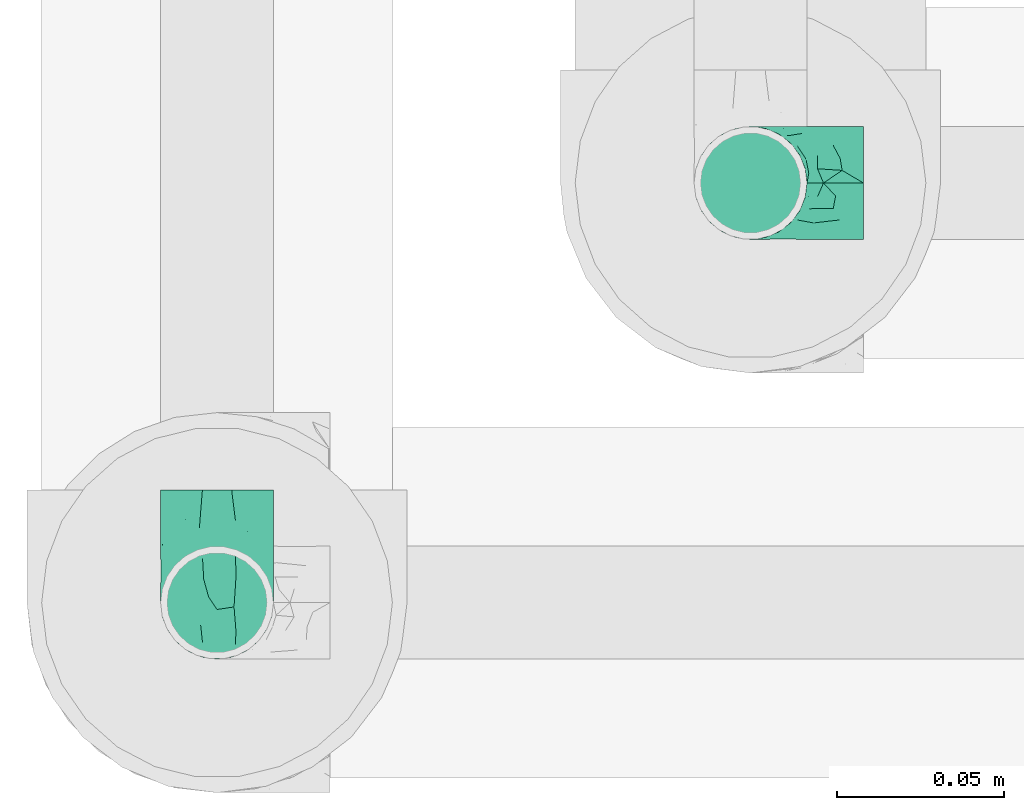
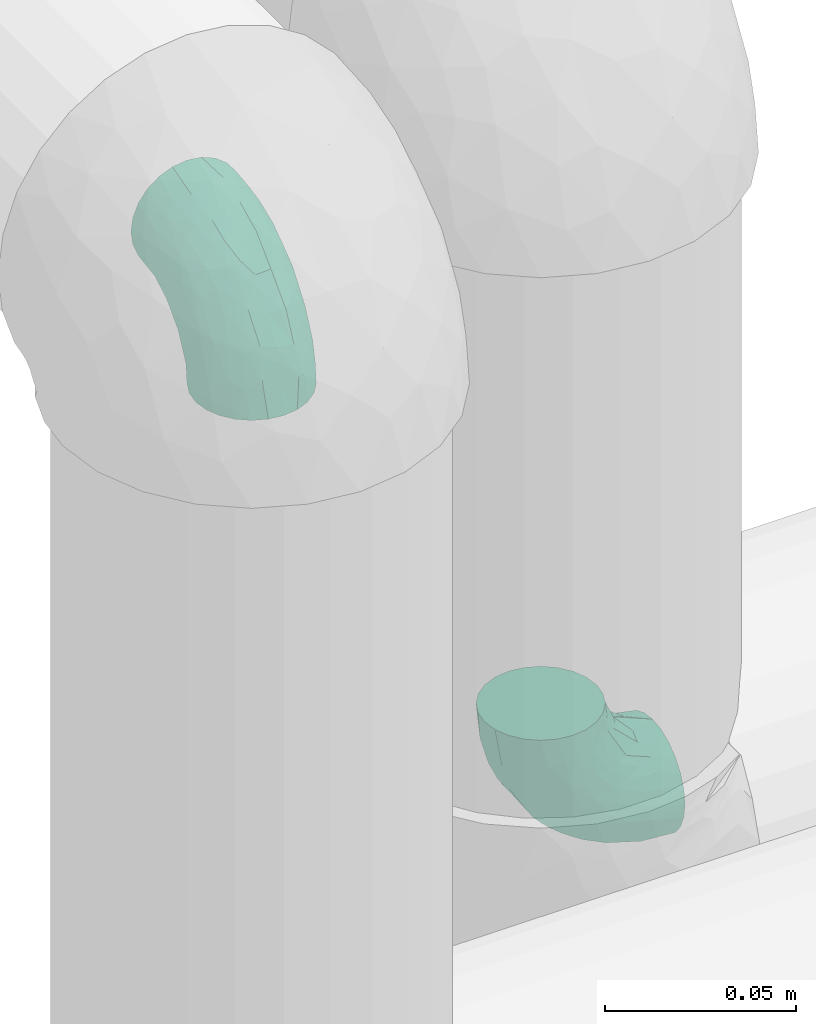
# One storey, part 78 of 83: 2 flow fittings.
"""IFC2X3 building model written with IfcOpenShell, lengths in millimetres."""

from ifc_helpers import new_model, entity, si_unit, converted_unit, derived_unit, direction, frame, origin_with_axes, place, context, subcontext, project, spatial, open_shell, surface_model, source, transform, mapped, type_object, element, save


model = new_model("IFC2X3")

# Units and contexts
model_context = context("Model", 3, precision=0.01, world=frame((0.0, 4.29681676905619e-09, 0.0)), true_north=direction((4.01073788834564e-13, 1.0)))
plan_context = context("Plan", 3, precision=0.01, world=frame((0.0, 4.29681676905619e-09, 0.0)), true_north=direction((4.01073788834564e-13, 1.0)))
body_context = subcontext(model_context, "Body", "Model", "MODEL_VIEW")
ifc_project = project(units=[converted_unit("PLANEANGLEUNIT", "DEGREE", entity("IfcPositiveLengthMeasure", 0.0174532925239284), si_unit("PLANEANGLEUNIT", "RADIAN"), dimensions=[0, 0, 0, 0, 0, 0, 0]), si_unit("AREAUNIT", "SQUARE_METRE"), si_unit("LENGTHUNIT", "METRE", prefix="MILLI"), si_unit("MASSUNIT", "GRAM", prefix="KILO"), si_unit("POWERUNIT", "WATT"), si_unit("PRESSUREUNIT", "PASCAL"), si_unit("FORCEUNIT", "NEWTON", prefix="KILO"), si_unit("ELECTRICVOLTAGEUNIT", "VOLT"), si_unit("ELECTRICCURRENTUNIT", "AMPERE"), si_unit("THERMODYNAMICTEMPERATUREUNIT", "DEGREE_CELSIUS"), si_unit("TIMEUNIT", "SECOND"), si_unit("VOLUMEUNIT", "CUBIC_METRE"), derived_unit("LINEARVELOCITYUNIT", [(si_unit("LENGTHUNIT", "METRE"), 1), (si_unit("TIMEUNIT", "SECOND"), -1)]), derived_unit("VOLUMETRICFLOWRATEUNIT", [(si_unit("VOLUMEUNIT", "CUBIC_METRE"), 1), (si_unit("TIMEUNIT", "SECOND"), -1)]), derived_unit("THERMALTRANSMITTANCEUNIT", [(si_unit("POWERUNIT", "WATT"), 1), (si_unit("THERMODYNAMICTEMPERATUREUNIT", "KELVIN"), -1), (si_unit("AREAUNIT", "SQUARE_METRE"), -1)]), derived_unit("SOUNDPRESSUREUNIT", [(si_unit("PRESSUREUNIT", "PASCAL"), 1)])], contexts=[model_context, plan_context])

# Site, building, storey
site_placement = place(None, frame((0.0, -4.29681676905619e-09, 0.0), z_axis=(0.0, 0.0, 1.0), x_axis=(1.0, 0.0, 0.0)))
site = spatial("IfcSite", under=ifc_project, at=site_placement, Name="ENGM", CompositionType="ELEMENT")
building_placement = place(site_placement, frame((0.0, 4.29681676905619e-09, 0.0), z_axis=(0.0, 0.0, 1.0), x_axis=(1.0, 0.0, 0.0)))
building = spatial("IfcBuilding", under=site, at=building_placement, Name="TI", CompositionType="ELEMENT")
storey_placement = place(building_placement, frame((0.0, 0.0, 204000.0), z_axis=(0.0, 0.0, 1.0), x_axis=(1.0, 0.0, 0.0)))
storey = spatial("IfcBuildingStorey", under=building, at=storey_placement, Name="Nivå D", CompositionType="ELEMENT", Elevation=204000.0)

# Flow fittings
pipe_fitting_type = type_object("IfcPipeFittingType", Name="magi_pipe_fe_elbow_short_001", PredefinedType="BEND")
shared_shape_1 = source(origin_with_axes(), body_context, "Body", "SurfaceModel", [
    surface_model("IfcShellBasedSurfaceModel", [(-33.80026, 0.0, -16.9), (-33.80026, -14.63583, -8.45), (-33.80026, 4.37404, -16.32415), (-33.80026, 8.45, -14.63583), (-33.80026, 11.9501, -11.9501), (-33.80026, 16.32415, -4.37404), (-33.80026, 14.63583, -8.45), (-33.80026, -16.32415, -4.37404), (-33.80026, -16.32415, 4.37404), (-33.80026, -11.9501, -11.9501), (-33.80026, -8.45, -14.63583), (-33.80026, -4.37404, -16.32415), (-33.80026, -16.9, 0.0), (-33.80026, 16.32415, 4.37404), (-33.80026, 16.9, 0.0), (-33.80026, 11.9501, 11.9501), (-33.80026, 14.63583, 8.45), (-33.80026, 4.37404, 16.32415), (-33.80026, 8.45, 14.63583), (-33.80026, -14.63583, 8.45), (-33.80026, -11.9501, 11.9501), (-33.80026, -8.45, 14.63583), (-33.80026, -4.37404, 16.32415), (-33.80026, 0.0, 16.9), (-11.95036, 33.80016, -11.9501), (-0.00026, 33.80026, -16.9), (-4.3743, 33.80022, -16.32415), (-8.45026, 33.80019, -14.63583), (-14.63609, 33.80014, -8.45), (-16.3244, 33.80013, -4.37404), (16.32389, 33.80038, -4.37404), (8.44974, 33.80032, -14.63583), (11.94985, 33.80035, -11.9501), (4.37379, 33.80029, -16.32415), (14.63557, 33.80037, -8.45), (16.89974, 33.80038, 0.0), (-16.90026, 33.80013, 0.0), (-11.95036, 33.80016, 11.9501), (-16.3244, 33.80013, 4.37404), (-14.63609, 33.80014, 8.45), (-8.45026, 33.80019, 14.63583), (-4.3743, 33.80022, 16.32415), (8.44974, 33.80032, 14.63583), (16.32389, 33.80038, 4.37404), (11.94985, 33.80035, 11.9501), (14.63557, 33.80037, 8.45), (-0.00026, 33.80026, 16.9), (4.37379, 33.80029, 16.32415), (-24.79416, -13.12946, 9.4872), (-22.19313, -9.75019, 12.59314), (-24.09919, -14.97033, 0.0), (-14.93962, -10.76257, 8.52969), (-22.46121, -14.75051, 5.27076), (14.75034, 22.46132, 5.27077), (11.92501, 13.23925, 4.33237), (13.04055, 14.39822, 0.0), (7.71376, 13.68877, 11.5589), (9.75002, 22.1932, 12.59314), (4.10156, 13.05731, 14.04018), (-24.84033, -6.39063, 15.2048), (-25.818, -2.23879, 16.61097), (-23.66571, 2.59054, 16.87119), (-26.50442, 14.06512, 11.08153), (-24.21275, 17.66367, 7.72658), (-29.58537, 15.86958, 7.00283), (-6.17396, -7.54542, 0.0), (-13.23916, -11.92511, 4.33237), (-14.39812, -13.04066, 0.0), (-17.8145, 18.87383, 11.97105), (-6.30868, 29.15155, 15.82987), (-2.3164, 25.28023, 16.85849), (-29.23944, 10.23435, 13.77053), (-1.45463, -2.85691, 7.61467), (-0.28333, 0.34883, 10.09502), (-5.74499, -4.04705, 10.41215), (-4.41151, 11.31935, 16.59407), (-8.39744, 3.10035, 15.78118), (-1.72666, 9.13071, 15.53089), (-17.39929, 24.75352, 7.64978), (-26.19259, 20.05122, 0.0), (-28.14542, 17.29658, 4.25856), (-26.05172, 6.6281, 15.96447), (-5.87367, 16.61956, 16.86968), (-12.51823, 12.51813, 16.48937), (-10.06324, 7.38522, 16.81294), (-3.01894, 3.01892, 13.81716), (-13.05728, -4.10166, 14.04018), (-16.82571, -0.15164, 16.38038), (10.76246, 14.9397, 8.52969), (13.12927, 24.79426, 9.4872), (6.39044, 24.84038, 15.2048), (2.23859, 25.81802, 16.61097), (-13.68872, -7.71387, 11.5589), (14.97015, 24.0993, 0.0), (-7.30912, 22.90005, 16.09489), (-10.67978, 26.1743, 14.008), (-12.78315, 18.26933, 15.06065), (-13.8858, 22.45244, 12.93244), (-18.04964, 15.16506, 14.04434), (-23.1168, 20.0818, 4.02986), (-21.85011, 21.84994, 0.0), (-18.55841, 25.48281, 3.93066), (-13.95162, 26.94747, 11.03289), (-18.57118, 7.23909, 16.59756), (-16.58351, 4.14124, 16.89279), (-17.96682, 11.46715, 15.63151), (-9.84471, 17.54314, 16.18938), (0.15151, 16.82571, 16.38038), (-23.27225, 11.47203, 14.23155), (3.84827, 5.87015, 10.70478), (-8.02144, -7.54415, 7.93271), (1.00331, -2.19504, 4.57397), (5.13177, 3.01012, 5.90213), (5.24179, 1.75482, 2.53261), (8.70445, 7.04983, 3.99211), (-20.05141, 26.19244, 0.0), (8.48479, 8.76703, 7.09328), (-4.55517, -6.72069, 4.90675), (2.05019, -2.05018, 0.0), (7.54537, 6.17402, 0.0), (-26.75421, 2.1369, -16.845), (-14.62015, 24.73811, -11.27737), (-28.45298, -13.45335, -9.81895), (-26.00493, 6.63555, -15.96645), (-23.06749, 20.04575, -4.26202), (-13.80661, -4.26498, -14.17874), (-14.67518, -0.21077, -16.07388), (-6.79026, -0.28272, -13.84776), (-24.53606, 11.08097, -14.13417), (-26.72072, 14.00838, -11.05777), (10.09652, 24.45021, -12.75975), (5.8322, 21.40245, -15.03046), (6.66228, 28.54267, -15.38093), (-20.38201, 15.4871, -12.74596), (12.53252, 21.23474, -9.15363), (12.54483, 15.67539, -5.54877), (9.75213, 12.89314, -8.6634), (-15.65205, 19.6422, -13.01328), (-12.03543, 20.66509, -14.67666), (-15.61924, 15.61912, -14.83881), (-25.56577, -15.26205, 0.0), (-24.65476, -15.12934, -5.50954), (13.45313, 28.45309, -9.81895), (15.12915, 24.65488, -5.50954), (-7.3547, -8.31015, -5.65563), (-15.6753, -12.54494, -5.54877), (-24.45014, -10.0967, -12.75975), (0.1652, 0.41324, -9.71725), (-5.70678, -5.33058, -8.89293), (-5.1386, -2.37174, -11.53563), (-21.23464, -12.53268, -9.15363), (0.71136, 7.93882, -14.09381), (0.21066, 14.67519, -16.07388), (3.49278, 14.42795, -14.7638), (-24.89935, -2.13088, -16.591), (-28.54262, -6.6625, -15.38093), (-18.44408, -7.71659, -13.26959), (2.1307, 24.89937, -16.591), (-28.64365, 17.44413, -2.89319), (1.70022, -1.28692, -5.09503), (-16.57089, 26.81954, -7.36597), (-17.69076, 27.42641, -3.76406), (-12.89307, -9.75223, -8.6634), (-5.96624, 5.96619, -15.95813), (-20.53733, 20.09346, -8.28986), (-2.1371, 26.75419, -16.845), (-6.89891, 24.58799, -16.02578), (-10.60759, 26.53174, -13.98044), (-21.40241, -5.83237, -15.03046), (2.93181, 5.89648, -11.55919), (6.89382, 12.61868, -11.82232), (5.58051, 5.95357, -8.79457), (-3.99527, 18.61814, -16.89635), (8.3101, 7.35476, -5.65563), (-9.13845, 9.86157, -16.89041), (-9.99997, 16.02134, -16.39699), (-16.68584, 9.78037, -16.342), (-27.01939, 16.61159, -7.12978), (15.26186, 25.56589, 0.0), (-18.61817, 3.99513, -16.89635), (-19.37518, 27.82503, 0.0), (-12.61863, -6.89392, -11.82232), (-18.84723, 19.14024, -10.96546)], [open_shell([[[0, 1, 2]], [[3, 2, 4]], [[5, 6, 4]], [[4, 2, 1]], [[4, 7, 8]], [[9, 1, 10]], [[0, 11, 10]], [[0, 10, 1]], [[1, 7, 4]], [[12, 8, 7]], [[5, 4, 8]], [[13, 14, 15]], [[16, 13, 15]], [[17, 18, 15]], [[8, 15, 14]], [[17, 15, 8]], [[19, 20, 8]], [[21, 8, 20]], [[22, 23, 21]], [[17, 8, 21]], [[21, 23, 17]], [[5, 8, 14]], [[24, 25, 26]], [[24, 26, 27]], [[24, 28, 29]], [[24, 29, 25]], [[25, 29, 30]], [[31, 30, 32]], [[31, 33, 25]], [[32, 30, 34]], [[25, 30, 31]], [[29, 35, 30]], [[29, 36, 35]], [[37, 36, 38]], [[37, 38, 39]], [[37, 40, 41]], [[36, 37, 42]], [[42, 37, 41]], [[43, 44, 45]], [[35, 44, 43]], [[42, 46, 47]], [[44, 36, 42]], [[41, 46, 42]], [[44, 35, 36]], [[20, 48, 49]], [[8, 12, 50]], [[51, 48, 52]], [[53, 54, 55]], [[48, 20, 19]], [[8, 52, 19]], [[56, 57, 58]], [[49, 21, 20]], [[49, 59, 21]], [[23, 60, 61]], [[62, 63, 64]], [[65, 66, 67]], [[57, 44, 42]], [[62, 68, 63]], [[41, 69, 70]], [[18, 71, 15]], [[22, 60, 23]], [[72, 73, 74]], [[75, 76, 77]], [[15, 62, 16]], [[39, 38, 78]], [[79, 14, 80]], [[64, 13, 16]], [[23, 61, 17]], [[17, 81, 18]], [[82, 83, 84]], [[74, 85, 86]], [[59, 86, 87]], [[88, 89, 57]], [[90, 42, 47]], [[45, 53, 43]], [[47, 46, 91]], [[54, 53, 88]], [[45, 89, 53]], [[92, 86, 49]], [[89, 45, 44]], [[21, 59, 22]], [[53, 55, 93]], [[93, 43, 53]], [[66, 52, 67]], [[94, 82, 70]], [[95, 96, 94]], [[97, 98, 96]], [[79, 99, 100]], [[40, 37, 95]], [[101, 100, 99]], [[68, 78, 63]], [[41, 40, 69]], [[14, 13, 80]], [[95, 94, 69]], [[78, 101, 99]], [[37, 102, 95]], [[70, 46, 41]], [[97, 95, 102]], [[8, 50, 52]], [[90, 57, 42]], [[57, 90, 58]], [[81, 17, 61]], [[103, 104, 84]], [[105, 81, 103]], [[37, 39, 102]], [[106, 96, 83]], [[94, 106, 82]], [[91, 70, 107]], [[71, 62, 15]], [[62, 108, 98]], [[86, 59, 49]], [[67, 52, 50]], [[60, 59, 87]], [[92, 49, 51]], [[86, 85, 76]], [[91, 90, 47]], [[35, 43, 93]], [[107, 77, 58]], [[107, 58, 90]], [[58, 85, 109]], [[110, 74, 92]], [[72, 74, 110]], [[66, 51, 52]], [[72, 111, 112]], [[113, 114, 112]], [[56, 88, 57]], [[52, 48, 19]], [[49, 48, 51]], [[57, 89, 44]], [[53, 89, 88]], [[103, 81, 61]], [[71, 81, 108]], [[13, 64, 80]], [[63, 78, 99]], [[36, 115, 101]], [[101, 115, 100]], [[39, 78, 102]], [[68, 102, 78]], [[97, 96, 95]], [[105, 98, 108]], [[103, 84, 83]], [[107, 70, 82]], [[76, 84, 87]], [[82, 84, 75]], [[70, 91, 46]], [[90, 91, 107]], [[59, 60, 22]], [[61, 60, 87]], [[73, 85, 74]], [[109, 112, 116]], [[103, 61, 104]], [[105, 103, 83]], [[96, 105, 83]], [[81, 105, 108]], [[96, 98, 105]], [[62, 98, 68]], [[61, 87, 104]], [[87, 84, 104]], [[86, 76, 87]], [[77, 76, 85]], [[58, 77, 85]], [[75, 77, 107]], [[82, 75, 107]], [[76, 75, 84]], [[81, 71, 18]], [[62, 71, 108]], [[95, 69, 40]], [[70, 69, 94]], [[62, 64, 16]], [[80, 63, 99]], [[63, 80, 64]], [[80, 99, 79]], [[66, 65, 117]], [[110, 66, 117]], [[112, 114, 116]], [[118, 117, 65]], [[110, 92, 51]], [[112, 111, 113]], [[119, 55, 54]], [[74, 86, 92]], [[58, 109, 56]], [[116, 56, 109]], [[66, 110, 51]], [[72, 110, 117]], [[111, 72, 117]], [[73, 112, 109]], [[117, 118, 111]], [[113, 111, 118]], [[118, 119, 113]], [[114, 119, 54]], [[119, 114, 113]], [[116, 54, 88]], [[54, 116, 114]], [[116, 88, 56]], [[112, 73, 72]], [[85, 73, 109]], [[78, 38, 101]], [[36, 101, 38]], [[102, 68, 97]], [[97, 68, 98]], [[82, 106, 83]], [[94, 96, 106]], [[2, 120, 0]], [[28, 24, 121]], [[9, 122, 1]], [[3, 123, 2]], [[100, 124, 79]], [[125, 126, 127]], [[128, 4, 129]], [[130, 131, 132]], [[128, 129, 133]], [[134, 135, 136]], [[137, 138, 139]], [[128, 3, 4]], [[67, 140, 141]], [[134, 142, 143]], [[141, 7, 1]], [[144, 65, 145]], [[146, 9, 10]], [[147, 148, 149]], [[145, 141, 150]], [[151, 152, 153]], [[154, 11, 0]], [[10, 155, 146]], [[150, 146, 156]], [[155, 10, 11]], [[143, 135, 134]], [[33, 157, 25]], [[14, 79, 158]], [[148, 159, 144]], [[160, 161, 29]], [[145, 162, 144]], [[163, 152, 151]], [[29, 28, 160]], [[121, 164, 160]], [[31, 32, 130]], [[25, 165, 26]], [[26, 165, 166]], [[142, 32, 34]], [[24, 27, 167]], [[124, 161, 164]], [[157, 33, 132]], [[155, 154, 168]], [[123, 3, 128]], [[169, 170, 171]], [[172, 157, 152]], [[26, 166, 27]], [[132, 33, 31]], [[142, 130, 32]], [[168, 154, 126]], [[136, 135, 173]], [[133, 137, 139]], [[4, 6, 129]], [[170, 131, 130]], [[34, 30, 143]], [[172, 174, 175]], [[176, 123, 128]], [[158, 177, 5]], [[135, 55, 119]], [[167, 27, 166]], [[175, 166, 172]], [[137, 167, 138]], [[122, 141, 1]], [[140, 12, 7]], [[30, 35, 178]], [[170, 130, 134]], [[152, 157, 131]], [[165, 157, 172]], [[153, 170, 151]], [[152, 163, 174]], [[168, 125, 156]], [[122, 146, 150]], [[120, 154, 0]], [[179, 174, 126]], [[179, 126, 154]], [[126, 163, 127]], [[162, 145, 150]], [[140, 7, 141]], [[30, 178, 143]], [[55, 143, 178]], [[177, 129, 6]], [[128, 133, 139]], [[176, 128, 139]], [[120, 123, 179]], [[121, 160, 28]], [[161, 100, 180]], [[166, 175, 138]], [[121, 24, 167]], [[161, 36, 29]], [[79, 124, 158]], [[124, 164, 177]], [[161, 124, 100]], [[136, 171, 170]], [[127, 163, 151]], [[147, 171, 159]], [[148, 144, 162]], [[127, 151, 169]], [[127, 181, 125]], [[129, 177, 164]], [[6, 5, 177]], [[159, 65, 144]], [[67, 141, 145]], [[143, 55, 135]], [[135, 119, 173]], [[123, 120, 2]], [[154, 120, 179]], [[157, 165, 25]], [[166, 165, 172]], [[172, 152, 174]], [[176, 139, 175]], [[126, 174, 163]], [[176, 174, 179]], [[174, 176, 175]], [[123, 176, 179]], [[150, 181, 162]], [[127, 149, 181]], [[181, 148, 162]], [[159, 148, 147]], [[171, 136, 173]], [[170, 134, 136]], [[159, 171, 173]], [[171, 147, 169]], [[169, 147, 149]], [[151, 170, 169]], [[164, 182, 129]], [[182, 121, 137]], [[181, 149, 148]], [[169, 149, 127]], [[182, 137, 133]], [[167, 137, 121]], [[166, 138, 167]], [[175, 139, 138]], [[129, 182, 133]], [[121, 182, 164]], [[161, 160, 164]], [[36, 161, 180]], [[177, 158, 124]], [[14, 158, 5]], [[130, 132, 31]], [[157, 132, 131]], [[143, 142, 34]], [[130, 142, 134]], [[154, 155, 11]], [[146, 155, 168]], [[146, 122, 9]], [[141, 122, 150]], [[152, 131, 153]], [[159, 119, 118]], [[67, 145, 65]], [[170, 153, 131]], [[119, 159, 173]], [[159, 118, 65]], [[156, 125, 181]], [[126, 125, 168]], [[150, 156, 181]], [[168, 156, 146]]])]),
])
flow_fitting_1_placement = place(storey_placement, frame((603050.14337, 693235.60884, 6342.19886999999), z_axis=(-1.0, 0.0, 0.0), x_axis=(0.0, 0.0, 1.0)))
element("IfcFlowFitting", 1, at=flow_fitting_1_placement, inside=storey, type_object=pipe_fitting_type, Name="magi_pipe_fe_elbow_short_001", context=body_context, shape_type="MappedRepresentation", body=[
    mapped(shared_shape_1, transform((0.0, 0.0, 0.0), scale=1.0)),
])
shared_shape_2 = source(origin_with_axes(), body_context, "Body", "SurfaceModel", [
    surface_model("IfcShellBasedSurfaceModel", [(-33.8006, 4.37404, -16.32415), (-33.8006, 0.0, -16.9), (-33.8006, 11.9501, -11.9501), (-33.8006, 8.45, -14.63583), (-33.8006, 16.32415, -4.37404), (-33.8006, 14.63583, -8.45), (-33.8006, -14.63583, -8.45), (-33.8006, -16.32415, -4.37404), (-33.8006, -8.45, 14.63583), (-33.8006, -11.9501, -11.9501), (-33.8006, -8.45, -14.63583), (-33.8006, -4.37404, -16.32415), (-33.8006, -16.9, 0.0), (-33.8006, -16.32415, 4.37404), (-33.8006, 11.9501, 11.9501), (-33.8006, 16.32415, 4.37404), (-33.8006, 14.63583, 8.45), (-33.8006, 4.37404, 16.32415), (-33.8006, 8.45, 14.63583), (-33.8006, -14.63583, 8.45), (-33.8006, -11.9501, 11.9501), (-33.8006, -4.37404, 16.32415), (-33.8006, 0.0, 16.9), (-33.8006, 16.9, 0.0), (-4.37465, 33.80053, -16.32415), (14.63523, 33.80086, -8.45), (-0.0006, 33.8006, -16.9), (-16.32475, 33.80031, -4.37404), (-8.4506, 33.80045, -14.63583), (-14.63643, 33.80034, -8.45), (-11.95071, 33.80039, -11.9501), (16.32354, 33.8009, -4.37404), (11.9495, 33.80082, -11.9501), (8.4494, 33.80076, -14.63583), (4.37344, 33.80068, -16.32415), (16.32354, 33.8009, 4.37404), (16.8994, 33.80091, 0.0), (11.9495, 33.80082, 11.9501), (-16.9006, 33.8003, 0.0), (-16.32475, 33.80031, 4.37404), (-14.63643, 33.80034, 8.45), (-8.4506, 33.80045, 14.63583), (-11.95071, 33.80039, 11.9501), (8.4494, 33.80076, 14.63583), (-4.37465, 33.80053, 16.32415), (14.63523, 33.80086, 8.45), (-0.0006, 33.8006, 16.9), (4.37344, 33.80068, 16.32415), (-24.79453, -13.12946, 9.4872), (-22.19349, -9.75019, 12.59314), (-24.09947, -14.9703, 0.0), (-14.94, -10.76259, 8.52969), (-22.46157, -14.75051, 5.27076), (14.75011, 22.46183, 5.27076), (11.92488, 13.23976, 4.33237), (13.04035, 14.39858, 0.0), (7.71362, 13.68919, 11.5589), (9.7498, 22.19366, 12.59314), (4.10139, 13.05758, 14.04016), (-24.84067, -6.39064, 15.2048), (-25.81829, -2.23879, 16.61096), (-23.66601, 2.59054, 16.8712), (-26.50475, 14.06513, 11.08153), (-24.21303, 17.66369, 7.72659), (-29.58568, 15.86958, 7.00284), (-6.17415, -7.54531, 0.0), (-13.23954, -11.92512, 4.33237), (-14.39834, -13.04061, 0.0), (-17.81471, 18.87395, 11.97106), (-6.30898, 29.15179, 15.82988), (-2.31666, 25.28053, 16.85849), (-29.23973, 10.23435, 13.77054), (-1.45495, -2.85696, 7.61456), (-0.28343, 0.34897, 10.09494), (-5.7452, -4.047, 10.41209), (-4.41169, 11.31958, 16.59407), (-8.39768, 3.10037, 15.78116), (-1.7269, 9.13085, 15.53089), (-17.39957, 24.75362, 7.6498), (-26.19295, 20.05123, 0.0), (-28.14575, 17.29659, 4.25855), (-26.05205, 6.6281, 15.96447), (-5.87383, 16.61971, 16.86968), (-12.51844, 12.51822, 16.48938), (-10.06339, 7.3853, 16.81294), (-3.01909, 3.01904, 13.81714), (-13.05751, -4.10162, 14.04016), (-16.82595, -0.15161, 16.38037), (10.76232, 14.94019, 8.52969), (13.12902, 24.79476, 9.4872), (6.39019, 24.84079, 15.2048), (2.23833, 25.81833, 16.61096), (-13.68905, -7.71387, 11.5589), (14.96987, 24.09974, 0.0), (-7.30937, 22.90024, 16.0949), (-10.68005, 26.17451, 14.00801), (-12.78342, 18.26944, 15.06065), (-13.88604, 22.45262, 12.93245), (-18.04991, 15.16512, 14.04434), (-23.11711, 20.08183, 4.02987), (-21.85039, 21.85, 0.0), (-18.55872, 25.48286, 3.93067), (-13.95189, 26.94766, 11.03289), (-18.57145, 7.23913, 16.59757), (-16.58374, 4.14125, 16.89279), (-17.96703, 11.46723, 15.63152), (-9.84495, 17.54328, 16.18938), (0.15131, 16.82595, 16.38037), (-23.2725, 11.47206, 14.23156), (3.84808, 5.87045, 10.70484), (-8.02178, -7.54417, 7.93266), (1.00311, -2.19498, 4.57374), (5.13143, 3.01022, 5.90229), (5.24203, 1.75553, 2.53256), (8.7043, 7.05032, 3.99251), (-20.0517, 26.19259, 0.0), (8.48425, 8.76709, 7.09371), (-4.55558, -6.72077, 4.90666), (2.05004, -2.05, 0.0), (7.54519, 6.17429, 0.0), (-26.75451, 2.1369, -16.845), (-14.62043, 24.73823, -11.27739), (-28.45331, -13.45335, -9.81894), (-26.00526, 6.63555, -15.96645), (-23.0678, 20.04578, -4.26202), (-13.80679, -4.26488, -14.17875), (-14.67543, -0.21072, -16.07388), (-6.79034, -0.28261, -13.8477), (-24.53634, 11.08098, -14.13418), (-26.72105, 14.00838, -11.05777), (10.09627, 24.45065, -12.75975), (5.83198, 21.40283, -15.03046), (6.66199, 28.54307, -15.38092), (-20.38227, 15.48717, -12.74596), (12.5323, 21.23518, -9.15362), (12.54467, 15.67587, -5.54876), (9.75204, 12.89363, -8.66336), (-15.65231, 19.64229, -13.0133), (-12.03564, 20.66523, -14.67669), (-15.61947, 15.61919, -14.83882), (-25.56612, -15.26204, 0.0), (-24.6551, -15.12934, -5.50953), (13.45284, 28.45355, -9.81894), (15.1289, 24.65537, -5.50953), (-7.35507, -8.31016, -5.65564), (-15.67565, -12.54495, -5.54876), (-24.45047, -10.09671, -12.75975), (0.16516, 0.41352, -9.71721), (-5.70705, -5.33047, -8.893), (-5.13849, -2.37142, -11.53559), (-21.23496, -12.53268, -9.15362), (0.71123, 7.93907, -14.0938), (0.21046, 14.67543, -16.07388), (3.49261, 14.42826, -14.76379), (-24.89969, -2.13089, -16.591), (-28.54295, -6.6625, -15.38092), (-18.44439, -7.71654, -13.26962), (2.13044, 24.89973, -16.591), (-28.64398, 17.44414, -2.89321), (1.70029, -1.2865, -5.095), (-16.57119, 26.81963, -7.36599), (-17.69105, 27.42656, -3.76406), (-12.89345, -9.75227, -8.66336), (-5.9664, 5.9663, -15.95812), (-20.53765, 20.09348, -8.28987), (-2.13737, 26.75447, -16.845), (-6.89916, 24.58823, -16.02579), (-10.60786, 26.53197, -13.98045), (-21.40272, -5.83237, -15.03046), (2.93165, 5.89677, -11.55921), (6.89367, 12.61902, -11.82231), (5.58046, 5.954, -8.79459), (-3.99549, 18.61835, -16.89635), (8.31003, 7.35522, -5.65564), (-9.13864, 9.86171, -16.89041), (-10.00015, 16.02155, -16.39699), (-16.68594, 9.78046, -16.34202), (-27.01971, 16.61161, -7.12978), (15.26158, 25.56639, 0.0), (-18.61842, 3.99516, -16.89635), (-19.3755, 27.82515, 0.0), (-12.6189, -6.8939, -11.82231), (-18.84747, 19.14034, -10.96547)], [open_shell([[[0, 1, 2]], [[3, 0, 2]], [[4, 5, 2]], [[6, 2, 1]], [[2, 7, 8]], [[9, 6, 10]], [[1, 11, 10]], [[1, 10, 6]], [[6, 7, 2]], [[12, 13, 7]], [[4, 2, 14]], [[14, 15, 4]], [[16, 15, 14]], [[17, 18, 14]], [[2, 8, 14]], [[17, 14, 8]], [[19, 20, 13]], [[13, 20, 7]], [[21, 22, 8]], [[20, 8, 7]], [[8, 22, 17]], [[23, 4, 15]], [[24, 25, 26]], [[27, 24, 28]], [[29, 27, 28]], [[29, 28, 30]], [[31, 24, 27]], [[26, 32, 33]], [[33, 34, 26]], [[32, 26, 25]], [[24, 31, 25]], [[31, 35, 36]], [[31, 27, 37]], [[38, 39, 40]], [[38, 40, 41]], [[38, 41, 37]], [[41, 40, 42]], [[43, 41, 44]], [[35, 37, 45]], [[31, 37, 35]], [[43, 46, 47]], [[43, 37, 41]], [[46, 43, 44]], [[37, 27, 38]], [[20, 48, 49]], [[13, 12, 50]], [[51, 48, 52]], [[53, 54, 55]], [[48, 20, 19]], [[13, 52, 19]], [[56, 57, 58]], [[49, 8, 20]], [[49, 59, 8]], [[22, 60, 61]], [[62, 63, 64]], [[65, 66, 67]], [[57, 37, 43]], [[62, 68, 63]], [[44, 69, 70]], [[18, 71, 14]], [[21, 60, 22]], [[72, 73, 74]], [[75, 76, 77]], [[14, 62, 16]], [[40, 39, 78]], [[79, 23, 80]], [[64, 15, 16]], [[22, 61, 17]], [[17, 81, 18]], [[82, 83, 84]], [[74, 85, 86]], [[59, 86, 87]], [[88, 89, 57]], [[90, 43, 47]], [[45, 53, 35]], [[47, 46, 91]], [[54, 53, 88]], [[45, 89, 53]], [[92, 86, 49]], [[89, 45, 37]], [[8, 59, 21]], [[53, 55, 93]], [[93, 35, 53]], [[66, 52, 67]], [[94, 82, 70]], [[95, 96, 94]], [[97, 98, 96]], [[79, 99, 100]], [[41, 42, 95]], [[101, 100, 99]], [[68, 78, 63]], [[44, 41, 69]], [[23, 15, 80]], [[95, 94, 69]], [[78, 101, 99]], [[42, 102, 95]], [[70, 46, 44]], [[97, 95, 102]], [[13, 50, 52]], [[90, 57, 43]], [[57, 90, 58]], [[81, 17, 61]], [[103, 104, 84]], [[105, 81, 103]], [[42, 40, 102]], [[94, 96, 106]], [[94, 106, 82]], [[91, 70, 107]], [[71, 62, 14]], [[62, 108, 98]], [[86, 59, 49]], [[67, 52, 50]], [[60, 59, 87]], [[92, 49, 51]], [[86, 85, 76]], [[91, 90, 47]], [[36, 35, 93]], [[107, 77, 58]], [[107, 58, 90]], [[58, 85, 109]], [[110, 74, 92]], [[72, 74, 110]], [[66, 51, 52]], [[72, 111, 112]], [[113, 114, 112]], [[56, 88, 57]], [[52, 48, 19]], [[49, 48, 51]], [[57, 89, 37]], [[53, 89, 88]], [[103, 81, 61]], [[71, 81, 108]], [[15, 64, 80]], [[63, 78, 99]], [[38, 115, 101]], [[101, 115, 100]], [[40, 78, 102]], [[68, 102, 78]], [[97, 96, 95]], [[105, 98, 108]], [[103, 84, 83]], [[107, 70, 82]], [[76, 84, 87]], [[82, 84, 75]], [[70, 91, 46]], [[90, 91, 107]], [[59, 60, 21]], [[61, 60, 87]], [[73, 85, 74]], [[109, 112, 116]], [[103, 61, 104]], [[105, 103, 83]], [[96, 105, 83]], [[81, 105, 108]], [[96, 98, 105]], [[62, 98, 68]], [[61, 87, 104]], [[87, 84, 104]], [[86, 76, 87]], [[77, 76, 85]], [[58, 77, 85]], [[75, 77, 107]], [[82, 75, 107]], [[76, 75, 84]], [[81, 71, 18]], [[62, 71, 108]], [[95, 69, 41]], [[70, 69, 94]], [[62, 64, 16]], [[80, 63, 99]], [[63, 80, 64]], [[80, 99, 79]], [[66, 65, 117]], [[110, 66, 117]], [[112, 114, 116]], [[118, 117, 65]], [[110, 92, 51]], [[112, 111, 113]], [[119, 55, 54]], [[74, 86, 92]], [[58, 109, 56]], [[116, 56, 109]], [[66, 110, 51]], [[72, 110, 117]], [[111, 72, 117]], [[73, 112, 109]], [[117, 118, 111]], [[113, 111, 118]], [[118, 119, 113]], [[114, 119, 54]], [[119, 114, 113]], [[116, 54, 88]], [[54, 116, 114]], [[116, 88, 56]], [[112, 73, 72]], [[85, 73, 109]], [[78, 39, 101]], [[38, 101, 39]], [[102, 68, 97]], [[97, 68, 98]], [[96, 83, 106]], [[82, 106, 83]], [[0, 120, 1]], [[29, 30, 121]], [[9, 122, 6]], [[3, 123, 0]], [[100, 124, 79]], [[125, 126, 127]], [[128, 2, 129]], [[130, 131, 132]], [[128, 129, 133]], [[134, 135, 136]], [[137, 138, 139]], [[128, 3, 2]], [[67, 140, 141]], [[134, 142, 143]], [[141, 7, 6]], [[144, 65, 145]], [[146, 9, 10]], [[147, 148, 149]], [[145, 141, 150]], [[151, 152, 153]], [[154, 11, 1]], [[10, 155, 146]], [[150, 146, 156]], [[155, 10, 11]], [[143, 135, 134]], [[34, 157, 26]], [[23, 79, 158]], [[148, 159, 144]], [[160, 161, 27]], [[145, 162, 144]], [[163, 152, 151]], [[27, 29, 160]], [[121, 164, 160]], [[33, 32, 130]], [[26, 165, 24]], [[24, 165, 166]], [[142, 32, 25]], [[30, 28, 167]], [[124, 161, 164]], [[157, 34, 132]], [[155, 154, 168]], [[123, 3, 128]], [[169, 170, 171]], [[172, 157, 152]], [[24, 166, 28]], [[132, 34, 33]], [[142, 130, 32]], [[168, 154, 126]], [[136, 135, 173]], [[133, 137, 139]], [[2, 5, 129]], [[170, 131, 130]], [[25, 31, 143]], [[172, 174, 175]], [[176, 123, 128]], [[158, 177, 4]], [[135, 55, 119]], [[167, 28, 166]], [[175, 166, 172]], [[137, 167, 138]], [[122, 141, 6]], [[140, 12, 7]], [[31, 36, 178]], [[170, 130, 134]], [[152, 157, 131]], [[165, 157, 172]], [[153, 170, 151]], [[152, 163, 174]], [[168, 125, 156]], [[122, 146, 150]], [[120, 154, 1]], [[179, 174, 126]], [[179, 126, 154]], [[126, 163, 127]], [[162, 145, 150]], [[140, 7, 141]], [[31, 178, 143]], [[55, 143, 178]], [[177, 129, 5]], [[128, 133, 139]], [[176, 128, 139]], [[120, 123, 179]], [[121, 160, 29]], [[161, 100, 180]], [[166, 175, 138]], [[121, 30, 167]], [[161, 38, 27]], [[79, 124, 158]], [[124, 164, 177]], [[161, 124, 100]], [[136, 171, 170]], [[127, 163, 151]], [[147, 171, 159]], [[148, 144, 162]], [[127, 151, 169]], [[127, 181, 125]], [[129, 177, 164]], [[5, 4, 177]], [[159, 65, 144]], [[67, 141, 145]], [[143, 55, 135]], [[135, 119, 173]], [[123, 120, 0]], [[154, 120, 179]], [[157, 165, 26]], [[166, 165, 172]], [[172, 152, 174]], [[176, 139, 175]], [[126, 174, 163]], [[176, 174, 179]], [[174, 176, 175]], [[123, 176, 179]], [[150, 181, 162]], [[127, 149, 181]], [[181, 148, 162]], [[159, 148, 147]], [[171, 136, 173]], [[170, 134, 136]], [[159, 171, 173]], [[171, 147, 169]], [[169, 147, 149]], [[151, 170, 169]], [[164, 182, 129]], [[182, 121, 137]], [[181, 149, 148]], [[169, 149, 127]], [[182, 137, 133]], [[167, 137, 121]], [[166, 138, 167]], [[175, 139, 138]], [[129, 182, 133]], [[121, 182, 164]], [[161, 160, 164]], [[38, 161, 180]], [[177, 158, 124]], [[23, 158, 4]], [[130, 132, 33]], [[157, 132, 131]], [[143, 142, 25]], [[130, 142, 134]], [[154, 155, 11]], [[146, 155, 168]], [[146, 122, 9]], [[141, 122, 150]], [[152, 131, 153]], [[159, 119, 118]], [[67, 145, 65]], [[170, 153, 131]], [[119, 159, 173]], [[159, 118, 65]], [[156, 125, 181]], [[126, 125, 168]], [[150, 156, 181]], [[168, 156, 146]]])]),
])
flow_fitting_2_placement = place(storey_placement, frame((603209.87398, 693361.26264, 6040.49723000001), z_axis=(0.0, -1.0, 0.0), x_axis=(0.0, 0.0, -1.0)))
element("IfcFlowFitting", 2, at=flow_fitting_2_placement, inside=storey, type_object=pipe_fitting_type, Name="magi_pipe_fe_elbow_short_001", context=body_context, shape_type="MappedRepresentation", body=[
    mapped(shared_shape_2, transform((0.0, 0.0, 0.0), scale=1.0)),
])

save(model, "model.ifc")
